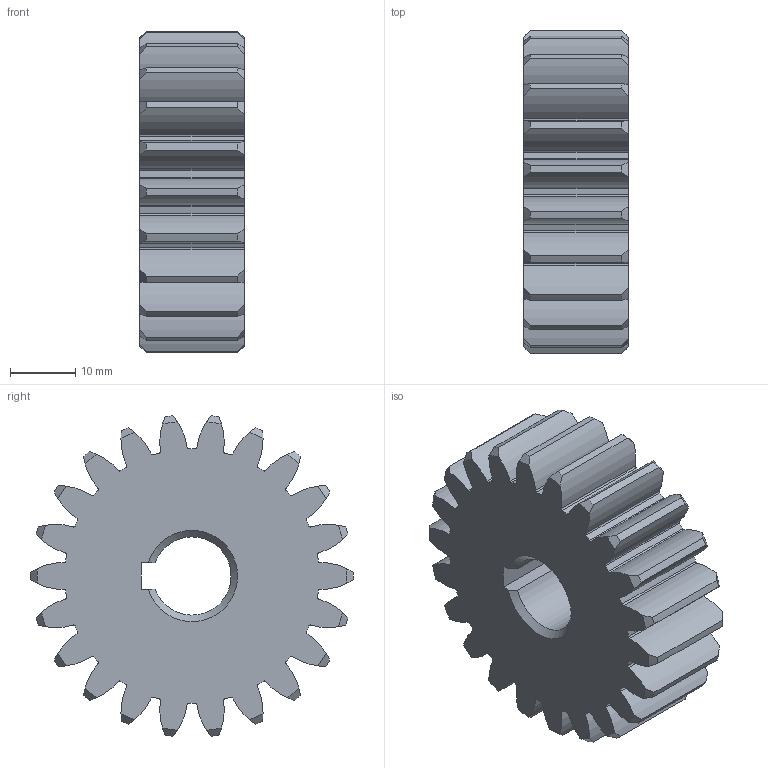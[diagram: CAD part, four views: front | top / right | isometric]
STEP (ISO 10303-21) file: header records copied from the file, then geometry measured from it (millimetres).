
FILE_DESCRIPTION(/* description */ (''),/* implementation_level */ '2;1');
FILE_NAME(/* name */ '',/* time_stamp */ '2025-02-26T16:20:30+09:00',/* author */ ('jhkim'),/* organization */ (''),/* preprocessor_version */ 'ST-DEVELOPER v20',/* originating_system */ 'Autodesk Inventor 2025',/* authorisation */ '');
FILE_SCHEMA (('AUTOMOTIVE_DESIGN { 1 0 10303 214 3 1 1 }'));
Length unit declared in the file: millimetre
Products named in the file (1): 스퍼기어
Bounding box: 16 x 49.5 x 49.15 mm (x, y, z)
Volume: 23110.9 mm3; surface area: 8275.1 mm2
Topology: 1 solids, 1 shells, 184 faces, 546 edges, 364 vertices
Faces by surface type: cylinder 133, cone 46, plane 5
Entity records: 6473 total; most frequent: CARTESIAN_POINT 1367, DIRECTION 1136, ORIENTED_EDGE 1092, EDGE_CURVE 546, AXIS2_PLACEMENT_3D 497, VERTEX_POINT 364, CIRCLE 312, EDGE_LOOP 186
